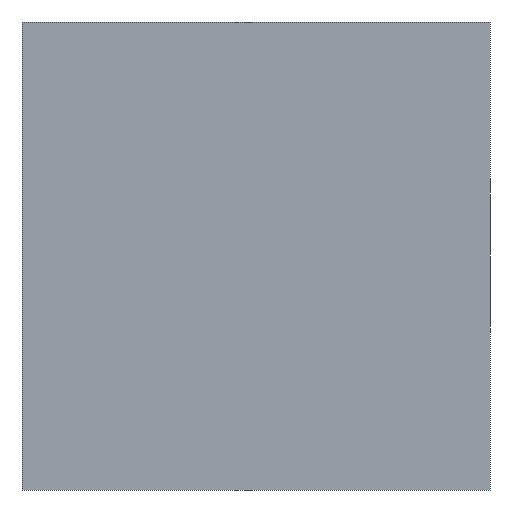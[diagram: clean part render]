
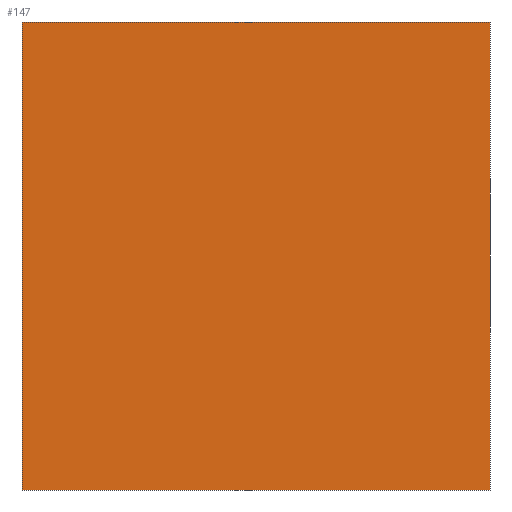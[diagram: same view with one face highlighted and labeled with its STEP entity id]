
A CAD part, front view. The second image highlights one B-rep face of the part: STEP entity #147.
In plain terms, the highlighted planar face has unit normal (0, -1, 0).
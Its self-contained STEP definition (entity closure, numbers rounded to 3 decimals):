
#147=ADVANCED_FACE('',(#168),#162,.T.);
#162=PLANE('',#365);
#168=FACE_OUTER_BOUND('',#171,.T.);
#171=EDGE_LOOP('',(#199,#200,#201,#202));
#199=ORIENTED_EDGE('',*,*,#265,.F.);
#200=ORIENTED_EDGE('',*,*,#266,.F.);
#201=ORIENTED_EDGE('',*,*,#267,.T.);
#202=ORIENTED_EDGE('',*,*,#268,.F.);
#245=VERTEX_POINT('',#477);
#246=VERTEX_POINT('',#478);
#247=VERTEX_POINT('',#480);
#248=VERTEX_POINT('',#482);
#265=EDGE_CURVE('',#245,#246,#288,.T.);
#266=EDGE_CURVE('',#247,#245,#289,.T.);
#267=EDGE_CURVE('',#247,#248,#290,.T.);
#268=EDGE_CURVE('',#246,#248,#291,.T.);
#288=LINE('',#476,#300);
#289=LINE('',#479,#301);
#290=LINE('',#481,#302);
#291=LINE('',#483,#303);
#300=VECTOR('',#405,1.);
#301=VECTOR('',#406,1.);
#302=VECTOR('',#407,1.);
#303=VECTOR('',#408,1.);
#365=AXIS2_PLACEMENT_3D('',#484,#409,#410);
#405=DIRECTION('',(-1.,0.,0.));
#406=DIRECTION('',(0.,0.,-1.));
#407=DIRECTION('',(-1.,0.,0.));
#408=DIRECTION('',(0.,0.,1.));
#409=DIRECTION('',(0.,-1.,0.));
#410=DIRECTION('',(0.,0.,-1.));
#476=CARTESIAN_POINT('',(0.,10.,-7.5));
#477=CARTESIAN_POINT('',(7.5,10.,-7.5));
#478=CARTESIAN_POINT('',(-7.5,10.,-7.5));
#479=CARTESIAN_POINT('',(7.5,10.,0.));
#480=CARTESIAN_POINT('',(7.5,10.,7.5));
#481=CARTESIAN_POINT('',(0.,10.,7.5));
#482=CARTESIAN_POINT('',(-7.5,10.,7.5));
#483=CARTESIAN_POINT('',(-7.5,10.,0.));
#484=CARTESIAN_POINT('',(0.,10.,0.));
